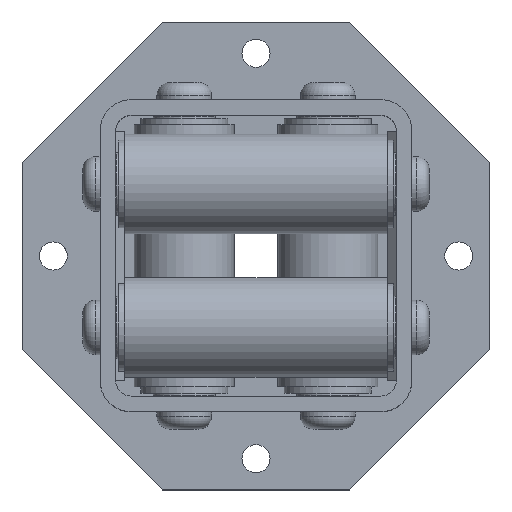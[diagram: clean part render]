
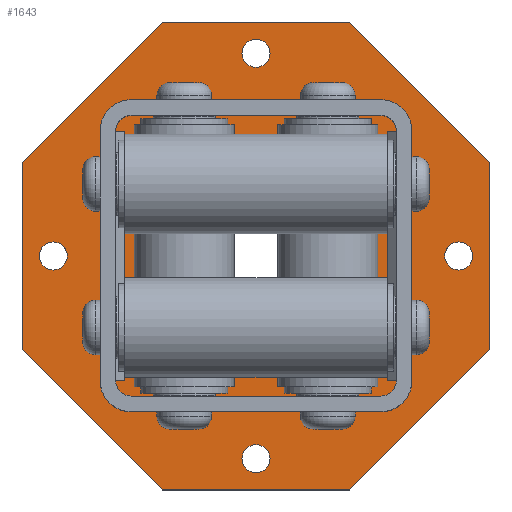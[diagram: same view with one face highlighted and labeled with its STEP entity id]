
A CAD part, top view. The second image highlights one B-rep face of the part: STEP entity #1643.
In plain terms, the highlighted planar face has unit normal (0, 0, 1).
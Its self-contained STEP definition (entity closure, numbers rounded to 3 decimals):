
#139=FACE_BOUND('',#442,.T.);
#140=FACE_BOUND('',#443,.T.);
#141=FACE_BOUND('',#444,.T.);
#142=FACE_BOUND('',#445,.T.);
#143=FACE_BOUND('',#446,.T.);
#176=CIRCLE('',#1888,35.);
#178=CIRCLE('',#1891,4.5);
#179=CIRCLE('',#1892,4.5);
#181=CIRCLE('',#1895,4.5);
#182=CIRCLE('',#1896,4.5);
#184=CIRCLE('',#1899,4.5);
#185=CIRCLE('',#1900,4.5);
#187=CIRCLE('',#1903,4.5);
#188=CIRCLE('',#1904,4.5);
#355=FACE_OUTER_BOUND('',#441,.T.);
#441=EDGE_LOOP('',(#1232,#1233,#1234,#1235,#1236,#1237,#1238,#1239));
#442=EDGE_LOOP('',(#1240));
#443=EDGE_LOOP('',(#1241,#1242));
#444=EDGE_LOOP('',(#1243,#1244));
#445=EDGE_LOOP('',(#1245,#1246));
#446=EDGE_LOOP('',(#1247,#1248));
#566=LINE('',#2731,#681);
#569=LINE('',#2737,#684);
#572=LINE('',#2743,#687);
#575=LINE('',#2749,#690);
#578=LINE('',#2755,#693);
#581=LINE('',#2761,#696);
#584=LINE('',#2767,#699);
#587=LINE('',#2771,#702);
#681=VECTOR('',#2184,10.);
#684=VECTOR('',#2189,10.);
#687=VECTOR('',#2194,10.);
#690=VECTOR('',#2199,10.);
#693=VECTOR('',#2204,10.);
#696=VECTOR('',#2209,10.);
#699=VECTOR('',#2214,10.);
#702=VECTOR('',#2219,10.);
#783=VERTEX_POINT('',#2687);
#785=VERTEX_POINT('',#2693);
#786=VERTEX_POINT('',#2694);
#788=VERTEX_POINT('',#2701);
#789=VERTEX_POINT('',#2702);
#791=VERTEX_POINT('',#2709);
#792=VERTEX_POINT('',#2710);
#794=VERTEX_POINT('',#2717);
#795=VERTEX_POINT('',#2718);
#799=VERTEX_POINT('',#2728);
#800=VERTEX_POINT('',#2730);
#802=VERTEX_POINT('',#2736);
#804=VERTEX_POINT('',#2742);
#806=VERTEX_POINT('',#2748);
#808=VERTEX_POINT('',#2754);
#810=VERTEX_POINT('',#2760);
#812=VERTEX_POINT('',#2766);
#941=EDGE_CURVE('',#783,#783,#176,.T.);
#944=EDGE_CURVE('',#785,#786,#178,.T.);
#945=EDGE_CURVE('',#786,#785,#179,.T.);
#948=EDGE_CURVE('',#788,#789,#181,.T.);
#949=EDGE_CURVE('',#789,#788,#182,.T.);
#952=EDGE_CURVE('',#791,#792,#184,.T.);
#953=EDGE_CURVE('',#792,#791,#185,.T.);
#956=EDGE_CURVE('',#794,#795,#187,.T.);
#957=EDGE_CURVE('',#795,#794,#188,.T.);
#962=EDGE_CURVE('',#800,#799,#566,.T.);
#965=EDGE_CURVE('',#802,#800,#569,.T.);
#968=EDGE_CURVE('',#804,#802,#572,.T.);
#971=EDGE_CURVE('',#806,#804,#575,.T.);
#974=EDGE_CURVE('',#808,#806,#578,.T.);
#977=EDGE_CURVE('',#810,#808,#581,.T.);
#980=EDGE_CURVE('',#812,#810,#584,.T.);
#983=EDGE_CURVE('',#799,#812,#587,.T.);
#1232=ORIENTED_EDGE('',*,*,#983,.T.);
#1233=ORIENTED_EDGE('',*,*,#980,.T.);
#1234=ORIENTED_EDGE('',*,*,#977,.T.);
#1235=ORIENTED_EDGE('',*,*,#974,.T.);
#1236=ORIENTED_EDGE('',*,*,#971,.T.);
#1237=ORIENTED_EDGE('',*,*,#968,.T.);
#1238=ORIENTED_EDGE('',*,*,#965,.T.);
#1239=ORIENTED_EDGE('',*,*,#962,.T.);
#1240=ORIENTED_EDGE('',*,*,#941,.T.);
#1241=ORIENTED_EDGE('',*,*,#944,.T.);
#1242=ORIENTED_EDGE('',*,*,#945,.T.);
#1243=ORIENTED_EDGE('',*,*,#948,.T.);
#1244=ORIENTED_EDGE('',*,*,#949,.T.);
#1245=ORIENTED_EDGE('',*,*,#952,.T.);
#1246=ORIENTED_EDGE('',*,*,#953,.T.);
#1247=ORIENTED_EDGE('',*,*,#956,.T.);
#1248=ORIENTED_EDGE('',*,*,#957,.T.);
#1592=PLANE('',#1914);
#1643=ADVANCED_FACE('',(#355,#139,#140,#141,#142,#143),#1592,.T.);
#1888=AXIS2_PLACEMENT_3D('',#2688,#2139,#2140);
#1891=AXIS2_PLACEMENT_3D('',#2695,#2146,#2147);
#1892=AXIS2_PLACEMENT_3D('',#2696,#2148,#2149);
#1895=AXIS2_PLACEMENT_3D('',#2703,#2155,#2156);
#1896=AXIS2_PLACEMENT_3D('',#2704,#2157,#2158);
#1899=AXIS2_PLACEMENT_3D('',#2711,#2164,#2165);
#1900=AXIS2_PLACEMENT_3D('',#2712,#2166,#2167);
#1903=AXIS2_PLACEMENT_3D('',#2719,#2173,#2174);
#1904=AXIS2_PLACEMENT_3D('',#2720,#2175,#2176);
#1914=AXIS2_PLACEMENT_3D('',#2772,#2220,#2221);
#2139=DIRECTION('center_axis',(0.,0.,-1.));
#2140=DIRECTION('ref_axis',(-1.,0.,0.));
#2146=DIRECTION('center_axis',(0.,0.,-1.));
#2147=DIRECTION('ref_axis',(1.,0.,0.));
#2148=DIRECTION('center_axis',(0.,0.,-1.));
#2149=DIRECTION('ref_axis',(1.,0.,0.));
#2155=DIRECTION('center_axis',(0.,0.,-1.));
#2156=DIRECTION('ref_axis',(1.,0.,0.));
#2157=DIRECTION('center_axis',(0.,0.,-1.));
#2158=DIRECTION('ref_axis',(1.,0.,0.));
#2164=DIRECTION('center_axis',(0.,0.,-1.));
#2165=DIRECTION('ref_axis',(1.,0.,0.));
#2166=DIRECTION('center_axis',(0.,0.,-1.));
#2167=DIRECTION('ref_axis',(1.,0.,0.));
#2173=DIRECTION('center_axis',(0.,0.,-1.));
#2174=DIRECTION('ref_axis',(1.,0.,0.));
#2175=DIRECTION('center_axis',(0.,0.,-1.));
#2176=DIRECTION('ref_axis',(1.,0.,0.));
#2184=DIRECTION('',(-0.707,0.707,0.));
#2189=DIRECTION('',(0.,1.,0.));
#2194=DIRECTION('',(0.707,0.707,0.));
#2199=DIRECTION('',(1.,0.,0.));
#2204=DIRECTION('',(0.707,-0.707,0.));
#2209=DIRECTION('',(0.,-1.,0.));
#2214=DIRECTION('',(-0.707,-0.707,0.));
#2219=DIRECTION('',(-1.,0.,0.));
#2220=DIRECTION('center_axis',(0.,0.,1.));
#2221=DIRECTION('ref_axis',(1.,0.,0.));
#2687=CARTESIAN_POINT('',(35.,0.,8.));
#2688=CARTESIAN_POINT('Origin',(0.,0.,8.));
#2693=CARTESIAN_POINT('',(4.5,65.,8.));
#2694=CARTESIAN_POINT('',(-4.5,65.,8.));
#2695=CARTESIAN_POINT('Origin',(0.,65.,8.));
#2696=CARTESIAN_POINT('Origin',(0.,65.,8.));
#2701=CARTESIAN_POINT('',(-60.5,0.,8.));
#2702=CARTESIAN_POINT('',(-69.5,0.,8.));
#2703=CARTESIAN_POINT('Origin',(-65.,0.,8.));
#2704=CARTESIAN_POINT('Origin',(-65.,0.,8.));
#2709=CARTESIAN_POINT('',(69.5,0.,8.));
#2710=CARTESIAN_POINT('',(60.5,0.,8.));
#2711=CARTESIAN_POINT('Origin',(65.,0.,8.));
#2712=CARTESIAN_POINT('Origin',(65.,0.,8.));
#2717=CARTESIAN_POINT('',(4.5,-65.,8.));
#2718=CARTESIAN_POINT('',(-4.5,-65.,8.));
#2719=CARTESIAN_POINT('Origin',(0.,-65.,8.));
#2720=CARTESIAN_POINT('Origin',(0.,-65.,8.));
#2728=CARTESIAN_POINT('',(30.,75.,8.));
#2730=CARTESIAN_POINT('',(75.,30.,8.));
#2731=CARTESIAN_POINT('',(75.,30.,8.));
#2736=CARTESIAN_POINT('',(75.,-30.,8.));
#2737=CARTESIAN_POINT('',(75.,-30.,8.));
#2742=CARTESIAN_POINT('',(30.,-75.,8.));
#2743=CARTESIAN_POINT('',(30.,-75.,8.));
#2748=CARTESIAN_POINT('',(-30.,-75.,8.));
#2749=CARTESIAN_POINT('',(-30.,-75.,8.));
#2754=CARTESIAN_POINT('',(-75.,-30.,8.));
#2755=CARTESIAN_POINT('',(-75.,-30.,8.));
#2760=CARTESIAN_POINT('',(-75.,30.,8.));
#2761=CARTESIAN_POINT('',(-75.,30.,8.));
#2766=CARTESIAN_POINT('',(-30.,75.,8.));
#2767=CARTESIAN_POINT('',(-30.,75.,8.));
#2771=CARTESIAN_POINT('',(30.,75.,8.));
#2772=CARTESIAN_POINT('Origin',(0.,0.,
8.));
